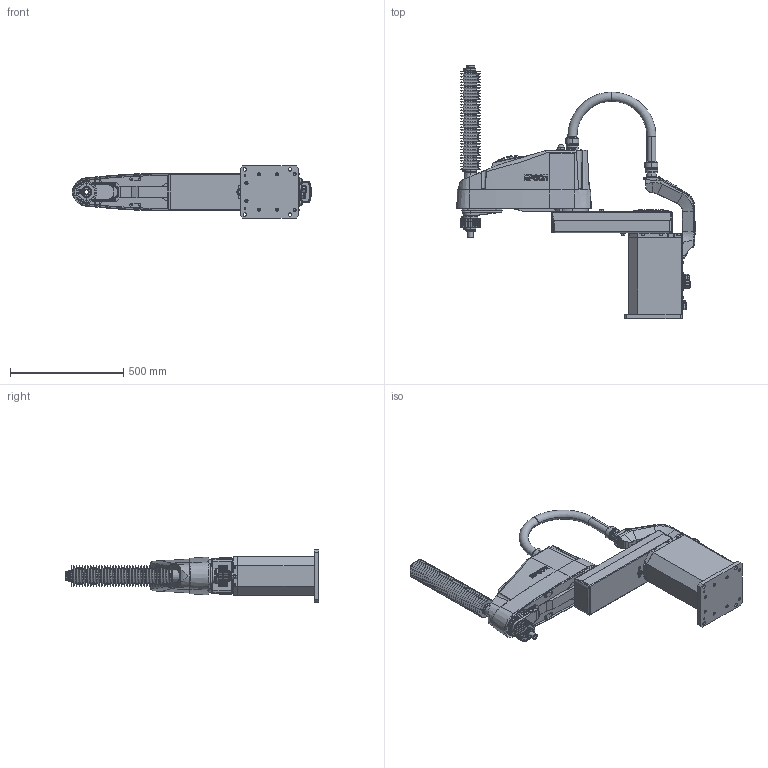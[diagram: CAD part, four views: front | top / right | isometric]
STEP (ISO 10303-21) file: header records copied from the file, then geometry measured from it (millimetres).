
FILE_DESCRIPTION (( 'STEP AP214' ), '1' );
FILE_NAME ('LS20-x804C.STEP', '2026-08-04T23:37:13', ( '' ), ( '' ), 'SwSTEP 2.0', 'SolidWorks 2020', '' );
FILE_SCHEMA (( 'AUTOMOTIVE_DESIGN' ));
Length unit declared in the file: millimetre
Products named in the file (9): LS20-C804C_BELLOWS2; LS20-x804C; LS20-C804C_BASE; LS20-C804C_BELLOWS; LS20-C804C_J1; LS20-C804C_J2; LS20-C804C_SHAFT; LS20-C804C_CABLE; LS20-C804C_BASE2
Assembly tree (8 placements, depth 2):
  LS20-x804C
    LS20-C804C_BASE
    LS20-C804C_BASE2
    LS20-C804C_J1
    LS20-C804C_J2
    LS20-C804C_SHAFT
    LS20-C804C_BELLOWS
    LS20-C804C_BELLOWS2
    LS20-C804C_CABLE
Bounding box: 1057.3 x 1119.3 x 230 mm (x, y, z)
Volume: 41962967.1 mm3; surface area: 3236747.5 mm2
Topology: 8 solids, 8 shells, 4162 faces, 10185 edges, 6380 vertices
Faces by surface type: plane 1630, cylinder 1305, cone 1038, torus 141, sphere 38, bspline 10
Entity records: 150713 total; most frequent: CARTESIAN_POINT 41911, ORIENTED_EDGE 20254, DIRECTION 19524, EDGE_CURVE 10127, AXIS2_PLACEMENT_3D 7378, VERTEX_POINT 6378, VECTOR 4768, LINE 4768
